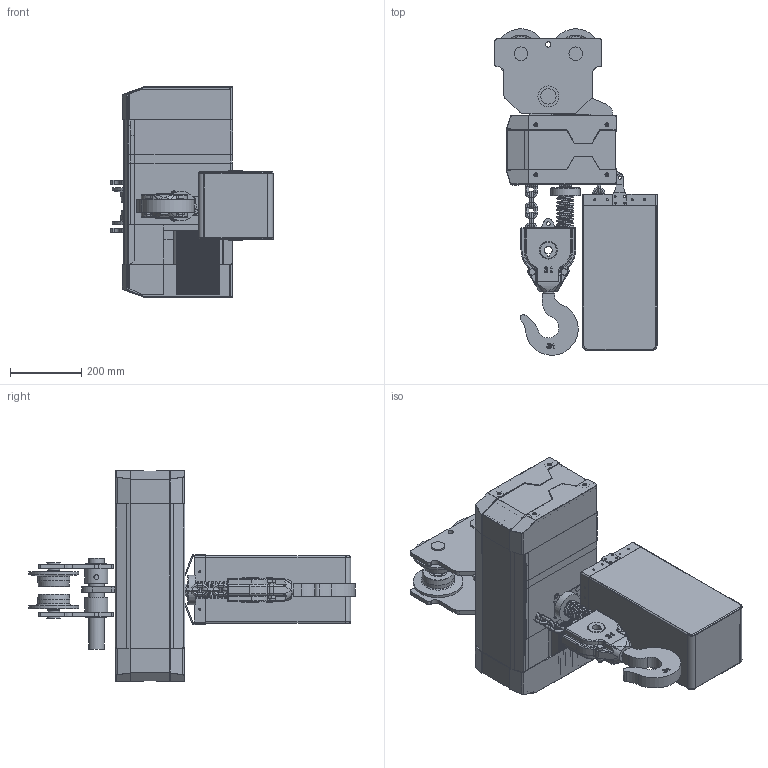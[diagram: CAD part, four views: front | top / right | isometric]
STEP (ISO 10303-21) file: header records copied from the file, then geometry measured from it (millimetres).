
FILE_DESCRIPTION(/* description */ (''),/* implementation_level */ '2;1');
FILE_NAME(/* name */ 'YJ 03-02 手拉式.stp',/* time_stamp */ '2026-07-08T09:06:54+08:00',/* author */ (''),/* organization */ (''),/* preprocessor_version */ 'ST-DEVELOPER v16.7',/* originating_system */ 'SIEMENS PLM Software NX 12.0',/* authorisation */ '');
FILE_SCHEMA (('AUTOMOTIVE_DESIGN { 1 0 10303 214 3 1 1 1 }'));
Products named in the file (1): A95BC464Ftyo8
Bounding box: 455.74 x 917.45 x 593 mm (x, y, z)
Volume: 36553028.6 mm3; surface area: 3212744.2 mm2
Topology: 26 solids, 44 shells, 3316 faces, 8603 edges, 5229 vertices
Faces by surface type: cylinder 1267, plane 1210, torus 442, extrusion 129, cone 110, bspline 87, sphere 71
Full cylindrical faces by diameter (mm): 2 x4, 2.4 x4, 3.4 x8, 5.5 x32, 5.795 x8, 6 x1, 6.3 x4, 6.4 x2, 6.6 x8, 7.46 x2, 9 x2, 10 x8, 10.3 x13, 10.841 x1, 11.701 x4, 12.4 x2, 13.5 x2, 15 x2, 23.2 x4, 25 x12, 29.7 x1, 33 x4, 33.6 x4, 33.8 x4, 34.2 x4, 37.8 x4, 43.5 x4, 47 x2, 50.5 x4, 58.6 x2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
Entity records: 112919 total; most frequent: CARTESIAN_POINT 33602, DIRECTION 16310, ORIENTED_EDGE 16256, EDGE_CURVE 8128, AXIS2_PLACEMENT_3D 5877, VERTEX_POINT 5117, VECTOR 4556, LINE 4427
